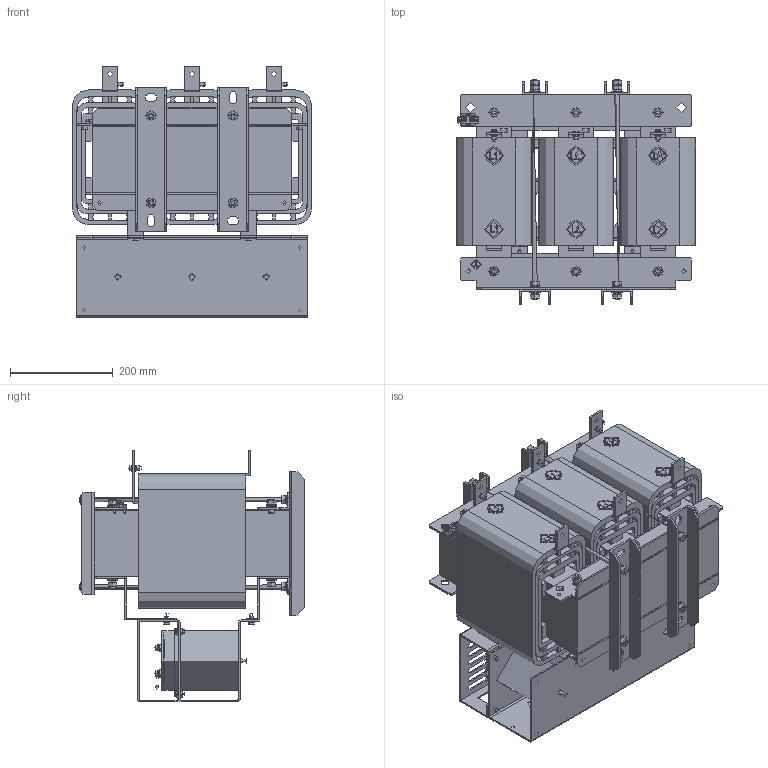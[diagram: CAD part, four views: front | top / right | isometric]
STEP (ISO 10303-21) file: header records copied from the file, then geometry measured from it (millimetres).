
FILE_DESCRIPTION(('STEP AP203'), '1');
FILE_NAME('蔓躅漤铋 耔眢耥 翳朦蝠 _ ISINOF-132_165-6', '', ('UNSPECIFIED'), ('UNSPECIFIED'), 'C3D Converter', 'C3D Toolkit', '');
FILE_SCHEMA(('CONFIG_CONTROL_DESIGN'));
Length unit declared in the file: millimetre
Products named in the file (42): ISINOF-132/165-6; LРНЦ吭X2\04560415\X0\; LРНЦ吭X2\04560415\X0\1; M10X430; RNB14-6S; 吒X2\0425\X0\116-150; UРН琵X2\042704050415\X0\ 60x30x4; UРНС№Мх 50x25x4; 琵X2\04370418042D0458042C\X0\ ; ёЗЧУ; ї琵X2\041E\X0\做зЧУKV223-2P; А降еМх70-380-1; ДЪДёЕЕ30X4; ЖЅ豹X2\043504560415\X0\豹X2\0435\X0\12x30x210; ИэПаМъРѕ390-380-128; ЙПјРјю450-62-4ЈЁ70-160; НвДёЕЕ30X4; ПЯИ¦165A; ПВјРјю390-62-4ЈЁ70-160; 愧X2\0437\X0\琵X2\041004560415041C0445\X0\210mm; №么X2\04270426041C0445\X0\12x10x210; plain washers--product grade c gb_GB_FASTENER_WASHER_SMWC 10; spring lock washers--normal type gb_GB_FASTENER_WASHER_SW 10; hexagon nuts grade c gb_GB_FASTENER_NUT_SNC1 M10-N; m10x180; plain washers--product grade c gb_GB_FASTENER_WASHER_SMWC 6; spring lock washers--normal type gb_GB_FASTENER_WASHER_SW 6; hexagon nuts grade c gb_GB_FASTENER_NUT_SNC1 M6-N; hexagon head bolts-full thread gb_GB_FASTENER_BOLT_STBAB A M6X20-N; hexagon head bolts-full thread gb_GB_FASTENER_BOLT_STBAB A M6X16-N; Cable_1-ИэПаХэПТІЁВЛІЁЖч SKS-SF-0165-6AЈЇ05; 琵X2\043704100412\X0\^Cable_1-ИэПаХэПТІЁВЛІЁЖч SKS-SF-0165-6AЈЇ05; Cable_2-ИэПаХэПТІЁВЛІЁЖч SKS-SF-0165-6AЈЇ05; 琵X2\043704100412\X0\^Cable_2-ИэПаХэПТІЁВЛІЁЖч SKS-SF-0165-6AЈЇ05; Cable_3-ИэПаХэПТІЁВЛІЁЖч SKS-SF-0165-6AЈЇ05; 琵X2\043704100412\X0\^Cable_3-ИэПаХэПТІЁВЛІЁЖч SKS-SF-0165-6AЈЇ05; Harness_1-ИэПаХэПТІЁВЛІЁЖч SKS-SF-0165-6AЈЇ05; 琵X2\043704100412\X0\^Harness_1-ИэПаХэПТІЁВЛІЁЖч SKS-SF-0165-6AЈЇ05; L1 L2 L3МщЦЅ; L1ЎЇ L2Ўｮ L3ЎЇМщЦЅ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
Assembly tree (245 placements, depth 3):
  ISINOF-132/165-6
    LРНЦ吭X2\04560415\X0\  x2
    LРНЦ吭X2\04560415\X0\1  x2
    M10X430  x4
    RNB14-6S  x9
    吒X2\0425\X0\116-150  x3
    UРН琵X2\042704050415\X0\ 60x30x4  x2
    UРНС№Мх 50x25x4  x2
    琵X2\04370418042D0458042C\X0\   x2
    ёЗЧУ
    ї琵X2\041E\X0\做зЧУKV223-2P
    А降еМх70-380-1  x6
    ДЪДёЕЕ30X4  x3
    ЖЅ豹X2\043504560415\X0\豹X2\0435\X0\12x30x210  x18
    ИэПаМъРѕ390-380-128
    ЙПјРјю450-62-4ЈЁ70-160  x2
    НвДёЕЕ30X4  x3
    ПЯИ¦165A  x3
    ПВјРјю390-62-4ЈЁ70-160
    愧X2\0437\X0\琵X2\041004560415041C0445\X0\210mm  x12
    №么X2\04270426041C0445\X0\12x10x210  x24
    plain washers--product grade c gb_GB_FASTENER_WASHER_SMWC 10  x36
    spring lock washers--normal type gb_GB_FASTENER_WASHER_SW 10  x20
    hexagon nuts grade c gb_GB_FASTENER_NUT_SNC1 M10-N  x28
    m10x180  x6
    plain washers--product grade c gb_GB_FASTENER_WASHER_SMWC 6  x20
    spring lock washers--normal type gb_GB_FASTENER_WASHER_SW 6  x3
    hexagon nuts grade c gb_GB_FASTENER_NUT_SNC1 M6-N  x3
    hexagon head bolts-full thread gb_GB_FASTENER_BOLT_STBAB A M6X20-N  x2
    hexagon head bolts-full thread gb_GB_FASTENER_BOLT_STBAB A M6X16-N  x14
    Cable_1-ИэПаХэПТІЁВЛІЁЖч SKS-SF-0165-6AЈЇ05
      琵X2\043704100412\X0\^Cable_1-ИэПаХэПТІЁВЛІЁЖч SKS-SF-0165-6AЈЇ05
    Cable_2-ИэПаХэПТІЁВЛІЁЖч SKS-SF-0165-6AЈЇ05
      琵X2\043704100412\X0\^Cable_2-ИэПаХэПТІЁВЛІЁЖч SKS-SF-0165-6AЈЇ05
    Cable_3-ИэПаХэПТІЁВЛІЁЖч SKS-SF-0165-6AЈЇ05
      琵X2\043704100412\X0\^Cable_3-ИэПаХэПТІЁВЛІЁЖч SKS-SF-0165-6AЈЇ05
    Harness_1-ИэПаХэПТІЁВЛІЁЖч SKS-SF-0165-6AЈЇ05
      琵X2\043704100412\X0\^Harness_1-ИэПаХэПТІЁВЛІЁЖч SKS-SF-0165-6AЈЇ05
    L1 L2 L3МщЦЅ
    L1ЎЇ L2Ўｮ L3ЎЇМщЦЅ
    琵X2\0428\X0\崤X2\043A\X0\
    ПВјРјю 70-160  ЅУ琵X2\042804570427\X0\
Bounding box: 467 x 439.6 x 490.5 mm (x, y, z)
Topology: 273 solids, 278 shells, 3307 faces, 7749 edges, 5085 vertices
Faces by surface type: plane 2055, cylinder 972, cone 245, bspline 25, torus 10
Full cylindrical faces by diameter (mm): 3 x2, 3.8 x2, 4 x4, 4.917 x3, 6 x58, 6.2 x9, 6.4 x9, 6.6 x20, 6.68 x3, 7 x3, 8 x10, 8.376 x28, 9 x2, 9.88 x3, 10 x10, 10.9 x20, 11 x42, 12 x45, 14 x42, 16 x6, 16.1 x20, 18.2 x1, 19 x1, 20 x41, 31.5 x6, 37.5 x6, 112 x3, 116 x6, 120 x6
Entity records: 64470 total; most frequent: CARTESIAN_POINT 16779, DIRECTION 6619, ORIENTED_EDGE 6034, EDGE_CURVE 3017, AXIS2_PLACEMENT_3D 2320, VERTEX_POINT 2098, LINE 1979, VECTOR 1979
